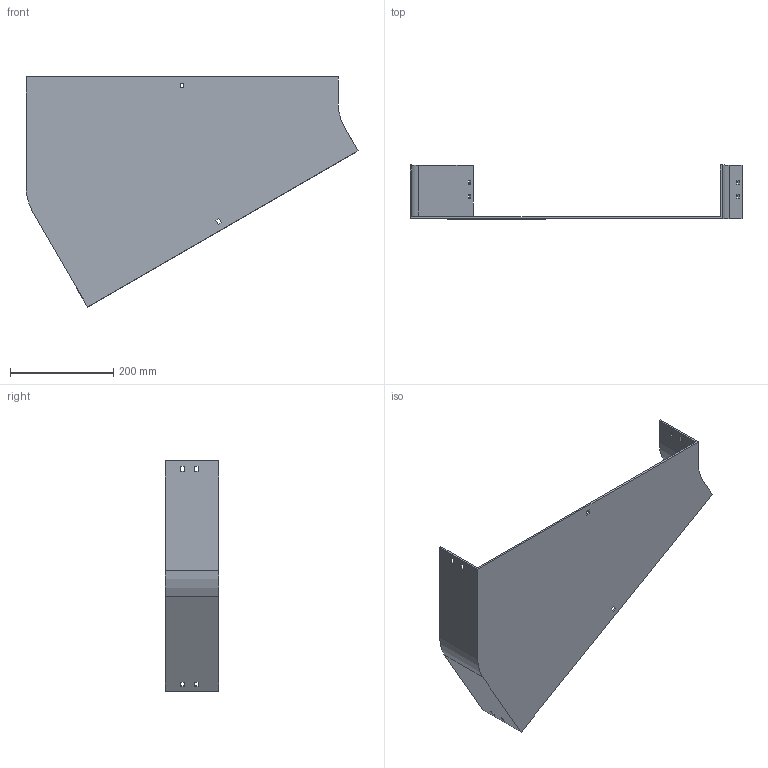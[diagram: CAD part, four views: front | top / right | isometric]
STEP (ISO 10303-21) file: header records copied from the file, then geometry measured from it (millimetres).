
FILE_DESCRIPTION (( 'STEP AP214' ), '1' );
FILE_NAME ('12B1D600.step', '2025-02-21T09:33:45', ( '' ), ( '' ), 'SwSTEP 2.0', 'SolidWorks 2023', '' );
FILE_SCHEMA (( 'AUTOMOTIVE_DESIGN' ));
Length unit declared in the file: millimetre
Products named in the file (1): 12B1D600
Bounding box: 642.4 x 104 x 445.3 mm (x, y, z)
Volume: 885492.5 mm3; surface area: 514999.1 mm2
Topology: 1 solids, 1 shells, 58 faces, 168 edges, 112 vertices
Faces by surface type: plane 54, cylinder 4
Entity records: 1943 total; most frequent: CARTESIAN_POINT 339, ORIENTED_EDGE 336, DIRECTION 294, EDGE_CURVE 168, VECTOR 160, LINE 160, VERTEX_POINT 112, EDGE_LOOP 78
